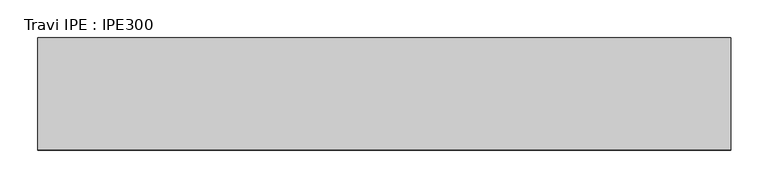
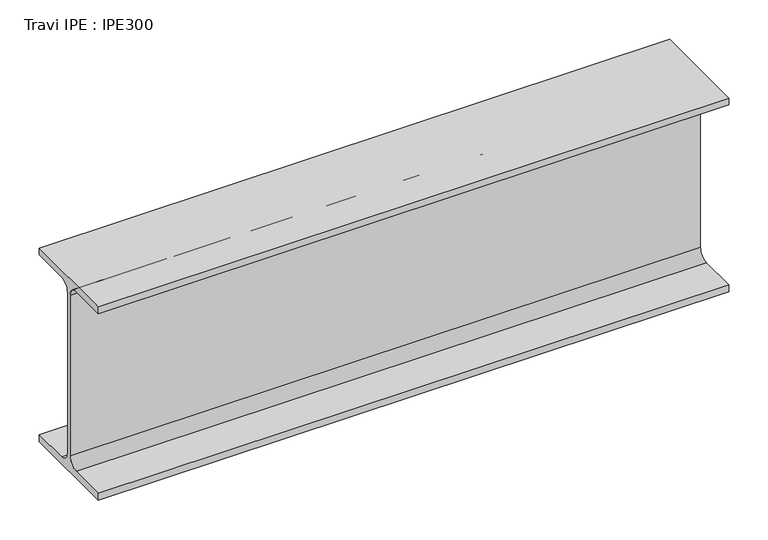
"""IFC4 building model written with IfcOpenShell, lengths in millimetres: beam geometry, Travi IPE : IPE300."""

from ifc_helpers import new_model, si_unit, point, frame, frame_2d, origin, place, context, project, spatial, polyline, circle_curve, trimmed, segment, composite_curve, outline, extrude, source, transform, mapped, element, save


def travi_ipe_ipe300_44290511(model_context):
    return source(origin(), model_context, "Body", "SweptSolid", [
        extrude(outline(composite_curve([segment(polyline([(75.0, -139.3), (75.0, -150.0), (-75.0, -150.0), (-75.0, -139.3), (-18.55, -139.3)]), True, "CONTINUOUS"), segment(trimmed(circle_curve(frame_2d((-18.55, -124.3)), 15.0), [point((-18.55, -139.3))], [point((-3.55, -124.3))], True, "CARTESIAN"), True, "CONTINUOUS"), segment(polyline([(-3.55, -124.3), (-3.55, 124.3)]), True, "CONTINUOUS"), segment(trimmed(circle_curve(frame_2d((-18.55, 124.3)), 15.0), [point((-3.55, 124.3))], [point((-18.55, 139.3))], True, "CARTESIAN"), True, "CONTINUOUS"), segment(polyline([(-18.55, 139.3), (-75.0, 139.3), (-75.0, 150.0), (75.0, 150.0), (75.0, 139.3), (18.55, 139.3)]), True, "CONTINUOUS"), segment(trimmed(circle_curve(frame_2d((18.55, 124.3)), 15.0), [point((18.55, 139.3))], [point((3.55, 124.3))], True, "CARTESIAN"), True, "CONTINUOUS"), segment(polyline([(3.55, 124.3), (3.55, -124.3)]), True, "CONTINUOUS"), segment(trimmed(circle_curve(frame_2d((18.55, -124.3)), 15.0), [point((3.55, -124.3))], [point((18.55, -139.3))], True, "CARTESIAN"), True, "CONTINUOUS"), segment(polyline([(18.55, -139.3), (75.0, -139.3)]), True, "CONTINUOUS")], self_intersect=False)), frame((-462.0, 0.0, 0.0), z_axis=(1.0, 0.0, 0.0), x_axis=(0.0, 1.0, 0.0)), (0.0, 0.0, 1.0), 924.0),
    ])


if __name__ == "__main__":
    model = new_model("IFC4")
    model_context = context("Model", 3, world=origin())
    ifc_project = project(units=[si_unit("LENGTHUNIT", "METRE", prefix="MILLI")], contexts=[model_context])
    site = spatial("IfcSite", under=ifc_project)
    building = spatial("IfcBuilding", under=site)
    placement = place(None, origin())
    travi_ipe_ipe300_shape = travi_ipe_ipe300_44290511(model_context)
    element("IfcBeam", 1, ObjectType="Travi IPE : IPE300", at=placement, inside=building, context=model_context, shape_type="MappedRepresentation", body=[
        mapped(travi_ipe_ipe300_shape, transform((0.0, 0.0, 0.0), x_axis=(1.0, 0.0, 0.0), y_axis=(0.0, 1.0, 0.0), z_axis=(0.0, 0.0, 1.0))),
    ])
    save(model, "model.ifc")
